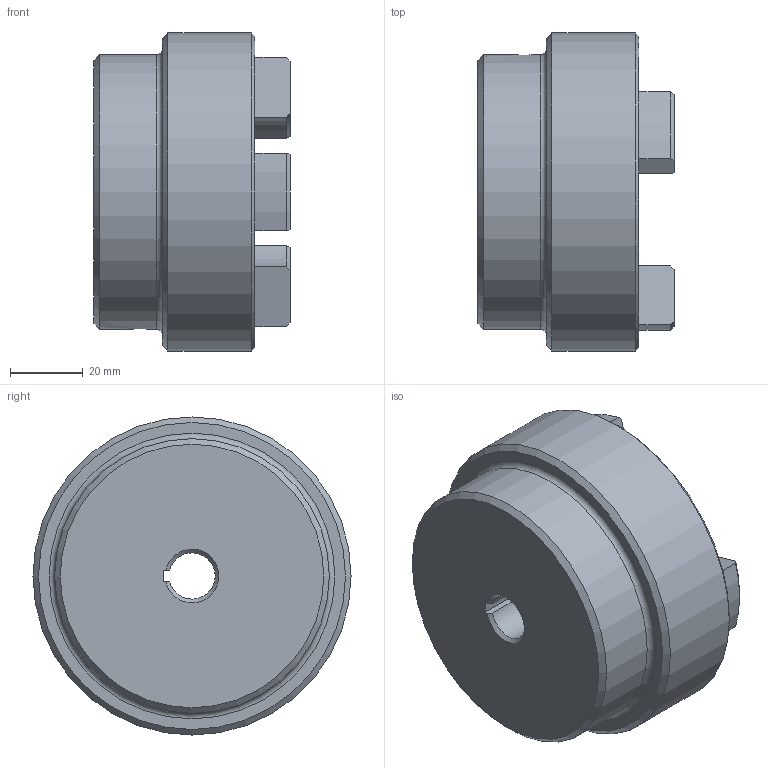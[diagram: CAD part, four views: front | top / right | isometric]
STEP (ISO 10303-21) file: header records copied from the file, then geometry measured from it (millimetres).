
FILE_DESCRIPTION (( 'STEP AP203' ), '1' );
FILE_NAME ('RC3.step', '2024-07-24T12:43:07', ( 'Adlan' ), ( '' ), 'SwSTEP 2.0', 'SolidWorks 2013', '' );
FILE_SCHEMA (( 'CONFIG_CONTROL_DESIGN' ));
Length unit declared in the file: inch
Products named in the file (1): RC3
Bounding box: 53.85 x 87.38 x 87.38 mm (x, y, z)
Volume: 191190.6 mm3; surface area: 30147.7 mm2
Topology: 1 solids, 1 shells, 70 faces, 183 edges, 115 vertices
Faces by surface type: cylinder 26, plane 19, torus 13, cone 12
Full cylindrical faces by diameter (mm): 5.105 x2, 75.438 x1, 87.376 x1
Entity records: 2385 total; most frequent: CARTESIAN_POINT 621, DIRECTION 370, ORIENTED_EDGE 332, EDGE_CURVE 166, AXIS2_PLACEMENT_3D 146, VERTEX_POINT 109, EDGE_LOOP 87, VECTOR 78
